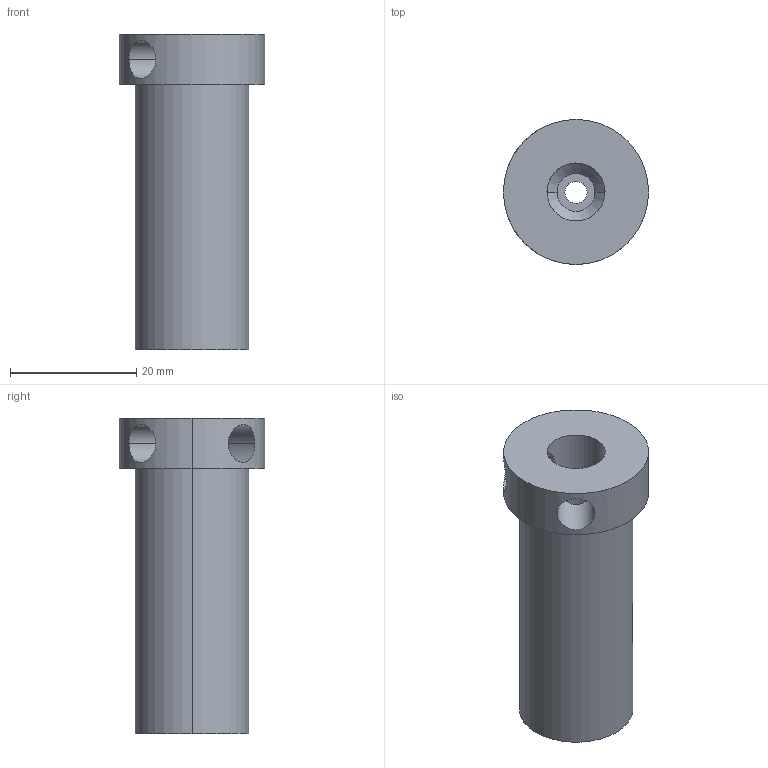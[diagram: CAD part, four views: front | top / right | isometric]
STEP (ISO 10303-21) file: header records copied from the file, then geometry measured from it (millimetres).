
FILE_DESCRIPTION(/* description */ (''),/* implementation_level */ '2;1');
FILE_NAME(/* name */ '3d_usn10-50_06261_r00.stp',/* time_stamp */ '2011-01-10T14:08:53+09:00',/* author */ ('MISUMI'),/* organization */ (''),/* preprocessor_version */ 'ST-DEVELOPER v11',/* originating_system */ 'UGS - NX 5.0',/* authorisation */ '');
FILE_SCHEMA (('CONFIG_CONTROL_DESIGN'));
Length unit declared in the file: millimetre
Products named in the file (1): 3d_usn10-50_06261_r00
Bounding box: 23 x 23 x 50 mm (x, y, z)
Volume: 10249.7 mm3; surface area: 5330.8 mm2
Topology: 1 solids, 1 shells, 21 faces, 46 edges, 30 vertices
Faces by surface type: cylinder 14, plane 5, cone 2
Entity records: 908 total; most frequent: CARTESIAN_POINT 338, DIRECTION 104, ORIENTED_EDGE 92, EDGE_CURVE 46, AXIS2_PLACEMENT_3D 44, EDGE_LOOP 30, VERTEX_POINT 30, CIRCLE 22
